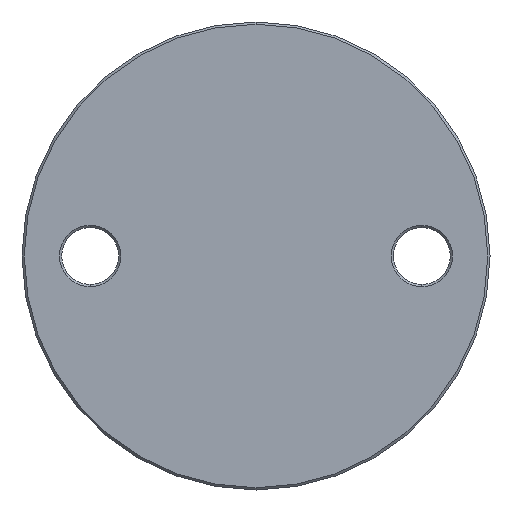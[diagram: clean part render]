
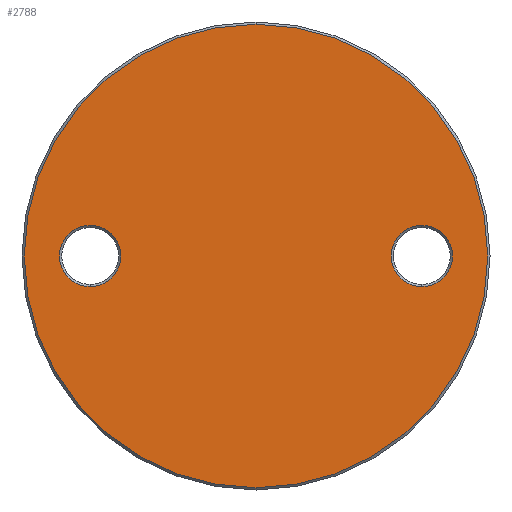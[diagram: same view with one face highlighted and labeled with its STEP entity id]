
A CAD part, front view. The second image highlights one B-rep face of the part: STEP entity #2788.
In plain terms, the highlighted planar face has unit normal (0, -1, 0).
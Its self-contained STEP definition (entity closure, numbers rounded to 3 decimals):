
#69 = ORIENTED_EDGE ( 'NONE', *, *, #9069, .T. ) ;
#167 = CIRCLE ( 'NONE', #233, 51. ) ;
#233 = AXIS2_PLACEMENT_3D ( 'NONE', #7870, #2916, #5418 ) ;
#261 = CIRCLE ( 'NONE', #8237, 6.75 ) ;
#645 = CIRCLE ( 'NONE', #7221, 6.75 ) ;
#847 = FACE_BOUND ( 'NONE', #10355, .T. ) ;
#939 = AXIS2_PLACEMENT_3D ( 'NONE', #8159, #3923, #8907 ) ;
#1362 = FACE_OUTER_BOUND ( 'NONE', #1846, .T. ) ;
#1846 = EDGE_LOOP ( 'NONE', ( #2345, #69 ) ) ;
#2236 = EDGE_CURVE ( 'NONE', #5423, #2361, #7042, .T. ) ;
#2345 = ORIENTED_EDGE ( 'NONE', *, *, #4648, .T. ) ;
#2361 = VERTEX_POINT ( 'NONE', #3049 ) ;
#2397 = CARTESIAN_POINT ( 'NONE',  ( -36.5, -3., 0. ) ) ;
#2540 = DIRECTION ( 'NONE',  ( 0., 0., -1. ) ) ;
#2583 = CARTESIAN_POINT ( 'NONE',  ( 0., -3., -51. ) ) ;
#2587 = DIRECTION ( 'NONE',  ( 0., 0., -1. ) ) ;
#2601 = ORIENTED_EDGE ( 'NONE', *, *, #2236, .T. ) ;
#2788 = ADVANCED_FACE ( 'NONE', ( #847, #8972, #1362 ), #10500, .T. ) ;
#2916 = DIRECTION ( 'NONE',  ( 0., -1., 0. ) ) ;
#3049 = CARTESIAN_POINT ( 'NONE',  ( 36.5, -3., -6.75 ) ) ;
#3421 = AXIS2_PLACEMENT_3D ( 'NONE', #3547, #6908, #6168 ) ;
#3433 = VERTEX_POINT ( 'NONE', #4663 ) ;
#3547 = CARTESIAN_POINT ( 'NONE',  ( 36.5, -3., 0. ) ) ;
#3923 = DIRECTION ( 'NONE',  ( 0., 1., 0. ) ) ;
#4648 = EDGE_CURVE ( 'NONE', #3433, #4863, #167, .T. ) ;
#4663 = CARTESIAN_POINT ( 'NONE',  ( 0., -3., 51. ) ) ;
#4863 = VERTEX_POINT ( 'NONE', #2583 ) ;
#5413 = CARTESIAN_POINT ( 'NONE',  ( 0., -3., 51.5 ) ) ;
#5418 = DIRECTION ( 'NONE',  ( 0., 0., -1. ) ) ;
#5423 = VERTEX_POINT ( 'NONE', #6851 ) ;
#5536 = AXIS2_PLACEMENT_3D ( 'NONE', #5413, #9601, #8773 ) ;
#5630 = AXIS2_PLACEMENT_3D ( 'NONE', #8577, #6004, #7750 ) ;
#5718 = EDGE_LOOP ( 'NONE', ( #7995, #6356 ) ) ;
#5802 = CARTESIAN_POINT ( 'NONE',  ( -36.5, -3., 0. ) ) ;
#6004 = DIRECTION ( 'NONE',  ( 0., -1., 0. ) ) ;
#6168 = DIRECTION ( 'NONE',  ( 0., 0., -1. ) ) ;
#6185 = EDGE_CURVE ( 'NONE', #7208, #9435, #261, .T. ) ;
#6356 = ORIENTED_EDGE ( 'NONE', *, *, #6185, .T. ) ;
#6851 = CARTESIAN_POINT ( 'NONE',  ( 36.5, -3., 6.75 ) ) ;
#6908 = DIRECTION ( 'NONE',  ( 0., 1., 0. ) ) ;
#7042 = CIRCLE ( 'NONE', #3421, 6.75 ) ;
#7208 = VERTEX_POINT ( 'NONE', #8269 ) ;
#7221 = AXIS2_PLACEMENT_3D ( 'NONE', #2397, #10662, #2540 ) ;
#7483 = DIRECTION ( 'NONE',  ( 0., 1., 0. ) ) ;
#7485 = EDGE_CURVE ( 'NONE', #9435, #7208, #645, .T. ) ;
#7750 = DIRECTION ( 'NONE',  ( 0., 0., -1. ) ) ;
#7870 = CARTESIAN_POINT ( 'NONE',  ( 0., -3., 0. ) ) ;
#7995 = ORIENTED_EDGE ( 'NONE', *, *, #7485, .T. ) ;
#8159 = CARTESIAN_POINT ( 'NONE',  ( 36.5, -3., 0. ) ) ;
#8237 = AXIS2_PLACEMENT_3D ( 'NONE', #5802, #7483, #2587 ) ;
#8269 = CARTESIAN_POINT ( 'NONE',  ( -36.5, -3., 6.75 ) ) ;
#8577 = CARTESIAN_POINT ( 'NONE',  ( 0., -3., 0. ) ) ;
#8773 = DIRECTION ( 'NONE',  ( 0., 0., -1. ) ) ;
#8907 = DIRECTION ( 'NONE',  ( 0., 0., -1. ) ) ;
#8972 = FACE_BOUND ( 'NONE', #5718, .T. ) ;
#9053 = ORIENTED_EDGE ( 'NONE', *, *, #9868, .T. ) ;
#9069 = EDGE_CURVE ( 'NONE', #4863, #3433, #10529, .T. ) ;
#9435 = VERTEX_POINT ( 'NONE', #9951 ) ;
#9601 = DIRECTION ( 'NONE',  ( 0., -1., 0. ) ) ;
#9868 = EDGE_CURVE ( 'NONE', #2361, #5423, #10148, .T. ) ;
#9951 = CARTESIAN_POINT ( 'NONE',  ( -36.5, -3., -6.75 ) ) ;
#10148 = CIRCLE ( 'NONE', #939, 6.75 ) ;
#10355 = EDGE_LOOP ( 'NONE', ( #9053, #2601 ) ) ;
#10500 = PLANE ( 'NONE',  #5536 ) ;
#10529 = CIRCLE ( 'NONE', #5630, 51. ) ;
#10662 = DIRECTION ( 'NONE',  ( 0., 1., 0. ) ) ;
